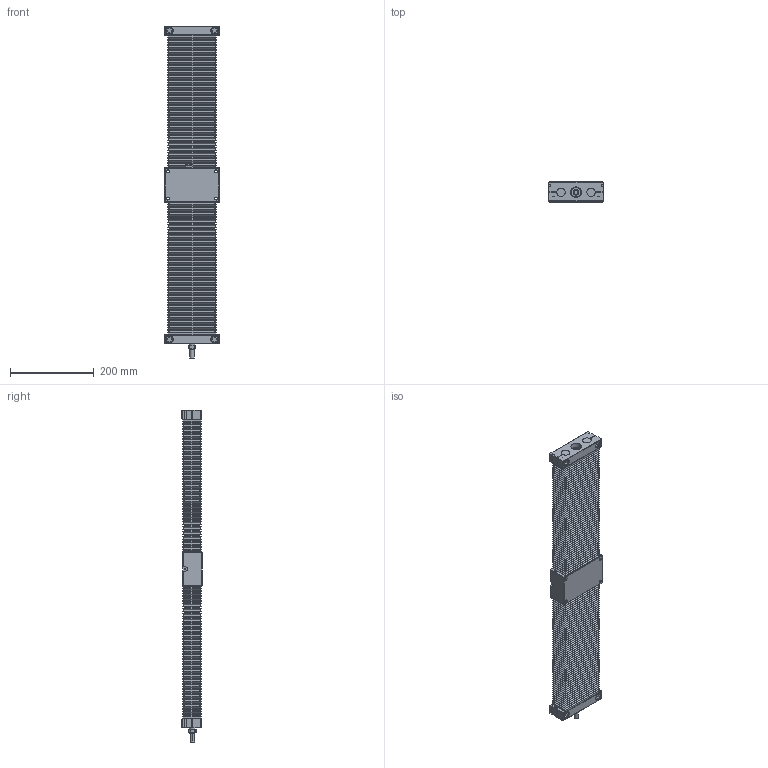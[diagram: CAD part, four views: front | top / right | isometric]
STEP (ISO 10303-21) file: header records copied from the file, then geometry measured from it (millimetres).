
FILE_DESCRIPTION (( 'STEP AP214' ), '1' );
FILE_NAME ('TKC2010B-400H0C-Ä£×é.step', '2025-08-25T08:39:38', ( '' ), ( '' ), 'SwSTEP 2.0', 'SolidWorks 2024', '' );
FILE_SCHEMA (( 'AUTOMOTIVE_DESIGN' ));
Length unit declared in the file: millimetre
Products named in the file (4): TKC20-400-03; TKC20-400-01; TKC20-02; TKC2010B-400H0C-模组
Assembly tree (4 placements, depth 2):
  TKC2010B-400H0C-模组
    TKC20-02
    TKC20-400-01
    TKC20-400-03  x2
Bounding box: 130 x 48 x 793.5 mm (x, y, z)
Volume: 2633154.2 mm3; surface area: 831109.5 mm2
Topology: 14 solids, 14 shells, 2068 faces, 4567 edges, 2572 vertices
Faces by surface type: plane 1569, cylinder 424, cone 36, torus 28, bspline 11
Entity records: 61564 total; most frequent: CARTESIAN_POINT 30310, ORIENTED_EDGE 6422, DIRECTION 6105, EDGE_CURVE 3211, LINE 2273, VECTOR 2273, AXIS2_PLACEMENT_3D 1916, VERTEX_POINT 1900
